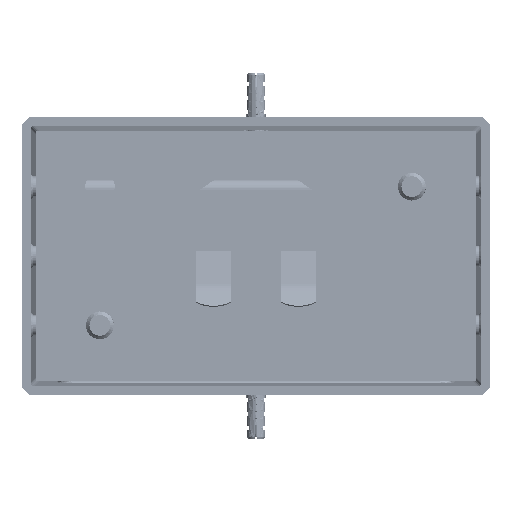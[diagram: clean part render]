
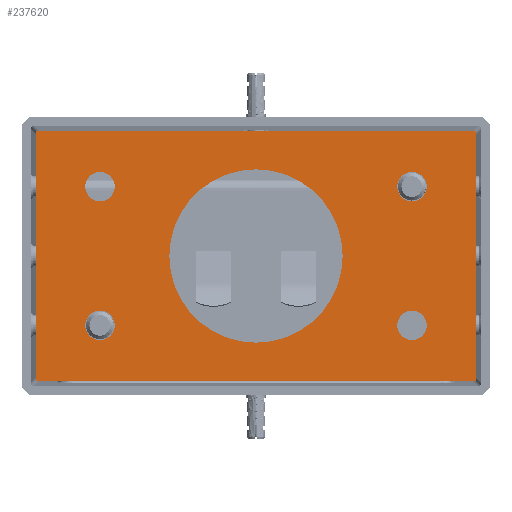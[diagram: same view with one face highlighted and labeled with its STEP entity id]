
A CAD part, front view. The second image highlights one B-rep face of the part: STEP entity #237620.
In plain terms, the highlighted planar face has unit normal (0, -1, 0).
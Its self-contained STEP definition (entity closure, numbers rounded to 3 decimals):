
#237051=DIRECTION('',(1.,0.,0.));
#237052=VECTOR('',#237051,127.);
#237053=CARTESIAN_POINT('',(-63.5,0.,-36.));
#237054=LINE('',#237053,#237052);
#237055=DIRECTION('',(0.,0.,-1.));
#237056=VECTOR('',#237055,72.);
#237057=CARTESIAN_POINT('',(-63.5,0.,36.));
#237058=LINE('',#237057,#237056);
#237059=DIRECTION('',(-1.,0.,0.));
#237060=VECTOR('',#237059,127.);
#237061=CARTESIAN_POINT('',(63.5,0.,36.));
#237062=LINE('',#237061,#237060);
#237063=DIRECTION('',(0.,0.,1.));
#237064=VECTOR('',#237063,72.);
#237065=CARTESIAN_POINT('',(63.5,0.,-36.));
#237066=LINE('',#237065,#237064);
#237067=CARTESIAN_POINT('',(0.,0.,0.));
#237068=DIRECTION('',(0.,-1.,0.));
#237069=DIRECTION('',(1.,0.,0.));
#237070=AXIS2_PLACEMENT_3D('',#237067,#237068,#237069);
#237072=CARTESIAN_POINT('',(0.,0.,0.));
#237073=DIRECTION('',(0.,-1.,0.));
#237074=DIRECTION('',(-1.,0.,0.));
#237075=AXIS2_PLACEMENT_3D('',#237072,#237073,#237074);
#237077=CARTESIAN_POINT('',(-45.,0.,-20.));
#237078=DIRECTION('',(0.,-1.,0.));
#237079=DIRECTION('',(1.,0.,0.));
#237080=AXIS2_PLACEMENT_3D('',#237077,#237078,#237079);
#237082=CARTESIAN_POINT('',(-45.,0.,-20.));
#237083=DIRECTION('',(0.,-1.,0.));
#237084=DIRECTION('',(-1.,0.,0.));
#237085=AXIS2_PLACEMENT_3D('',#237082,#237083,#237084);
#237087=CARTESIAN_POINT('',(45.,0.,20.));
#237088=DIRECTION('',(0.,-1.,0.));
#237089=DIRECTION('',(1.,0.,0.));
#237090=AXIS2_PLACEMENT_3D('',#237087,#237088,#237089);
#237092=CARTESIAN_POINT('',(45.,0.,20.));
#237093=DIRECTION('',(0.,-1.,0.));
#237094=DIRECTION('',(-1.,0.,0.));
#237095=AXIS2_PLACEMENT_3D('',#237092,#237093,#237094);
#237097=CARTESIAN_POINT('',(-45.,0.,20.));
#237098=DIRECTION('',(0.,-1.,0.));
#237099=DIRECTION('',(1.,0.,0.));
#237100=AXIS2_PLACEMENT_3D('',#237097,#237098,#237099);
#237102=CARTESIAN_POINT('',(-45.,0.,20.));
#237103=DIRECTION('',(0.,-1.,0.));
#237104=DIRECTION('',(-1.,0.,0.));
#237105=AXIS2_PLACEMENT_3D('',#237102,#237103,#237104);
#237107=CARTESIAN_POINT('',(45.,0.,-20.));
#237108=DIRECTION('',(0.,-1.,0.));
#237109=DIRECTION('',(1.,0.,0.));
#237110=AXIS2_PLACEMENT_3D('',#237107,#237108,#237109);
#237112=CARTESIAN_POINT('',(45.,0.,-20.));
#237113=DIRECTION('',(0.,-1.,0.));
#237114=DIRECTION('',(-1.,0.,0.));
#237115=AXIS2_PLACEMENT_3D('',#237112,#237113,#237114);
#237455=CARTESIAN_POINT('',(-63.5,0.,36.));
#237456=CARTESIAN_POINT('',(-63.5,0.,-36.));
#237457=VERTEX_POINT('',#237455);
#237458=VERTEX_POINT('',#237456);
#237471=CARTESIAN_POINT('',(25.,0.,0.));
#237472=CARTESIAN_POINT('',(-25.,0.,0.));
#237473=VERTEX_POINT('',#237471);
#237474=VERTEX_POINT('',#237472);
#237479=CARTESIAN_POINT('',(-40.75,0.,-20.));
#237480=CARTESIAN_POINT('',(-49.25,0.,-20.));
#237481=VERTEX_POINT('',#237479);
#237482=VERTEX_POINT('',#237480);
#237483=CARTESIAN_POINT('',(49.25,0.,20.));
#237484=CARTESIAN_POINT('',(40.75,0.,20.));
#237485=VERTEX_POINT('',#237483);
#237486=VERTEX_POINT('',#237484);
#237495=CARTESIAN_POINT('',(63.5,0.,-36.));
#237496=VERTEX_POINT('',#237495);
#237497=CARTESIAN_POINT('',(63.5,0.,36.));
#237498=VERTEX_POINT('',#237497);
#237511=CARTESIAN_POINT('',(-40.75,0.,20.));
#237512=CARTESIAN_POINT('',(-49.25,0.,20.));
#237513=VERTEX_POINT('',#237511);
#237514=VERTEX_POINT('',#237512);
#237515=CARTESIAN_POINT('',(49.25,0.,-20.));
#237516=CARTESIAN_POINT('',(40.75,0.,-20.));
#237517=VERTEX_POINT('',#237515);
#237518=VERTEX_POINT('',#237516);
#237575=CARTESIAN_POINT('',(0.,0.,-40.));
#237576=DIRECTION('',(0.,-1.,0.));
#237577=DIRECTION('',(1.,0.,0.));
#237578=AXIS2_PLACEMENT_3D('',#237575,#237576,#237577);
#237579=PLANE('',#237578);
#237581=ORIENTED_EDGE('',*,*,#237580,.F.);
#237583=ORIENTED_EDGE('',*,*,#237582,.F.);
#237585=ORIENTED_EDGE('',*,*,#237584,.F.);
#237587=ORIENTED_EDGE('',*,*,#237586,.F.);
#237588=EDGE_LOOP('',(#237581,#237583,#237585,#237587));
#237589=FACE_OUTER_BOUND('',#237588,.F.);
#237591=ORIENTED_EDGE('',*,*,#237590,.T.);
#237593=ORIENTED_EDGE('',*,*,#237592,.T.);
#237594=EDGE_LOOP('',(#237591,#237593));
#237595=FACE_BOUND('',#237594,.F.);
#237597=ORIENTED_EDGE('',*,*,#237596,.T.);
#237599=ORIENTED_EDGE('',*,*,#237598,.T.);
#237600=EDGE_LOOP('',(#237597,#237599));
#237601=FACE_BOUND('',#237600,.F.);
#237603=ORIENTED_EDGE('',*,*,#237602,.T.);
#237605=ORIENTED_EDGE('',*,*,#237604,.T.);
#237606=EDGE_LOOP('',(#237603,#237605));
#237607=FACE_BOUND('',#237606,.F.);
#237609=ORIENTED_EDGE('',*,*,#237608,.T.);
#237611=ORIENTED_EDGE('',*,*,#237610,.T.);
#237612=EDGE_LOOP('',(#237609,#237611));
#237613=FACE_BOUND('',#237612,.F.);
#237615=ORIENTED_EDGE('',*,*,#237614,.T.);
#237617=ORIENTED_EDGE('',*,*,#237616,.T.);
#237618=EDGE_LOOP('',(#237615,#237617));
#237619=FACE_BOUND('',#237618,.F.);
#237620=ADVANCED_FACE('',(#237589,#237595,#237601,#237607,#237613,#237619),
#237579,.T.);
#237071=CIRCLE('',#237070,25.);
#237076=CIRCLE('',#237075,25.);
#237081=CIRCLE('',#237080,4.25);
#237086=CIRCLE('',#237085,4.25);
#237091=CIRCLE('',#237090,4.25);
#237096=CIRCLE('',#237095,4.25);
#237101=CIRCLE('',#237100,4.25);
#237106=CIRCLE('',#237105,4.25);
#237111=CIRCLE('',#237110,4.25);
#237116=CIRCLE('',#237115,4.25);
#237580=EDGE_CURVE('',#237458,#237496,#237054,.T.);
#237582=EDGE_CURVE('',#237457,#237458,#237058,.T.);
#237584=EDGE_CURVE('',#237498,#237457,#237062,.T.);
#237586=EDGE_CURVE('',#237496,#237498,#237066,.T.);
#237590=EDGE_CURVE('',#237473,#237474,#237071,.T.);
#237592=EDGE_CURVE('',#237474,#237473,#237076,.T.);
#237596=EDGE_CURVE('',#237481,#237482,#237081,.T.);
#237598=EDGE_CURVE('',#237482,#237481,#237086,.T.);
#237602=EDGE_CURVE('',#237485,#237486,#237091,.T.);
#237604=EDGE_CURVE('',#237486,#237485,#237096,.T.);
#237608=EDGE_CURVE('',#237513,#237514,#237101,.T.);
#237610=EDGE_CURVE('',#237514,#237513,#237106,.T.);
#237614=EDGE_CURVE('',#237517,#237518,#237111,.T.);
#237616=EDGE_CURVE('',#237518,#237517,#237116,.T.);
